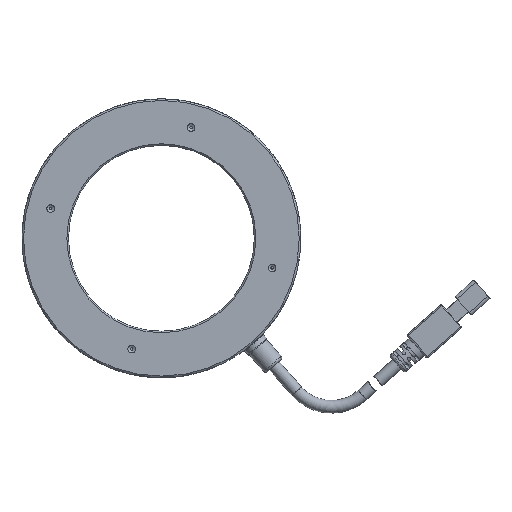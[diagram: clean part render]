
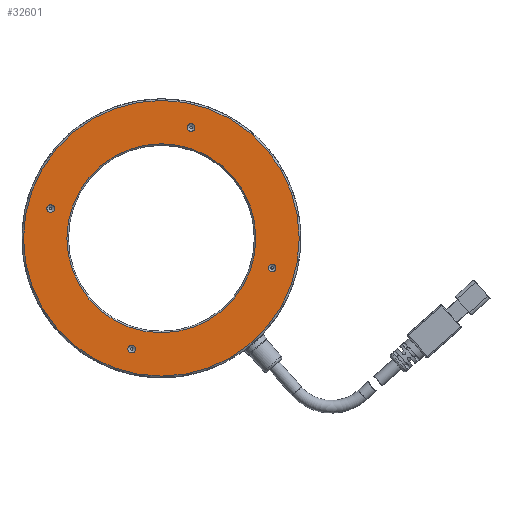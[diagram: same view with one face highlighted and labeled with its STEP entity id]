
A CAD part, front view. The second image highlights one B-rep face of the part: STEP entity #32601.
In plain terms, the highlighted planar face has unit normal (0, -1, 0).
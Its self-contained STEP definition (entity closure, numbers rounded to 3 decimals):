
#44 = CIRCLE ( 'NONE', #7725, 1.25 ) ;
#267 = DIRECTION ( 'NONE',  ( 0., 0., 1. ) ) ;
#392 = FACE_BOUND ( 'NONE', #36354, .T. ) ;
#794 = EDGE_LOOP ( 'NONE', ( #29741 ) ) ;
#1219 = EDGE_CURVE ( 'NONE', #36579, #36579, #28625, .T. ) ;
#1882 = VERTEX_POINT ( 'NONE', #18802 ) ;
#3583 = EDGE_LOOP ( 'NONE', ( #39015 ) ) ;
#4092 = DIRECTION ( 'NONE',  ( 0., 1., 0. ) ) ;
#4682 = DIRECTION ( 'NONE',  ( 0., 0., 1. ) ) ;
#4892 = DIRECTION ( 'NONE',  ( 0., 1., 0. ) ) ;
#6357 = AXIS2_PLACEMENT_3D ( 'NONE', #14523, #18055, #4682 ) ;
#7725 = AXIS2_PLACEMENT_3D ( 'NONE', #40496, #25305, #267 ) ;
#8152 = CARTESIAN_POINT ( 'NONE',  ( -8.623, 4.974, 0. ) ) ;
#8427 = DIRECTION ( 'NONE',  ( 0., 1., 0. ) ) ;
#9066 = ORIENTED_EDGE ( 'NONE', *, *, #36911, .T. ) ;
#9430 = CIRCLE ( 'NONE', #20198, 1.25 ) ;
#9689 = VERTEX_POINT ( 'NONE', #27954 ) ;
#12459 = CIRCLE ( 'NONE', #15367, 30.5 ) ;
#12937 = DIRECTION ( 'NONE',  ( 0., 1., 0. ) ) ;
#13023 = EDGE_CURVE ( 'NONE', #15496, #15496, #19027, .T. ) ;
#13059 = FACE_BOUND ( 'NONE', #794, .T. ) ;
#13189 = ORIENTED_EDGE ( 'NONE', *, *, #16524, .T. ) ;
#13820 = DIRECTION ( 'NONE',  ( 0., 0., 1. ) ) ;
#14523 = CARTESIAN_POINT ( 'NONE',  ( -44.363, 4.974, 9.576 ) ) ;
#15367 = AXIS2_PLACEMENT_3D ( 'NONE', #8152, #8427, #30103 ) ;
#15496 = VERTEX_POINT ( 'NONE', #37657 ) ;
#16524 = EDGE_CURVE ( 'NONE', #23788, #23788, #39513, .T. ) ;
#16843 = EDGE_LOOP ( 'NONE', ( #9066 ) ) ;
#17108 = DIRECTION ( 'NONE',  ( 0., 0., 1. ) ) ;
#17705 = EDGE_LOOP ( 'NONE', ( #20553 ) ) ;
#18055 = DIRECTION ( 'NONE',  ( 0., 1., 0. ) ) ;
#18152 = CARTESIAN_POINT ( 'NONE',  ( -8.623, 4.974, 44.5 ) ) ;
#18802 = CARTESIAN_POINT ( 'NONE',  ( -18.2, 4.974, -34.489 ) ) ;
#19027 = CIRCLE ( 'NONE', #24972, 1.25 ) ;
#19447 = CARTESIAN_POINT ( 'NONE',  ( 27.116, 4.974, -9.576 ) ) ;
#19869 = FACE_BOUND ( 'NONE', #17705, .T. ) ;
#19983 = DIRECTION ( 'NONE',  ( 0., 0., 1. ) ) ;
#20198 = AXIS2_PLACEMENT_3D ( 'NONE', #25472, #12937, #37792 ) ;
#20553 = ORIENTED_EDGE ( 'NONE', *, *, #34067, .T. ) ;
#20857 = FACE_BOUND ( 'NONE', #3583, .T. ) ;
#23666 = EDGE_CURVE ( 'NONE', #39451, #39451, #44, .T. ) ;
#23788 = VERTEX_POINT ( 'NONE', #34381 ) ;
#24972 = AXIS2_PLACEMENT_3D ( 'NONE', #19447, #4092, #19983 ) ;
#25197 = CARTESIAN_POINT ( 'NONE',  ( 0.953, 4.974, 36.989 ) ) ;
#25285 = ORIENTED_EDGE ( 'NONE', *, *, #1219, .T. ) ;
#25305 = DIRECTION ( 'NONE',  ( 0., 1., 0. ) ) ;
#25472 = CARTESIAN_POINT ( 'NONE',  ( -18.2, 4.974, -35.739 ) ) ;
#27954 = CARTESIAN_POINT ( 'NONE',  ( -8.623, 4.974, 30.5 ) ) ;
#28625 = CIRCLE ( 'NONE', #29289, 44.5 ) ;
#29174 = FACE_BOUND ( 'NONE', #16843, .T. ) ;
#29289 = AXIS2_PLACEMENT_3D ( 'NONE', #35247, #38668, #13820 ) ;
#29741 = ORIENTED_EDGE ( 'NONE', *, *, #13023, .T. ) ;
#30103 = DIRECTION ( 'NONE',  ( 0., 0., 1. ) ) ;
#30588 = EDGE_LOOP ( 'NONE', ( #25285 ) ) ;
#32021 = PLANE ( 'NONE',  #36383 ) ;
#32601 = ADVANCED_FACE ( 'NONE', ( #37978, #29174, #19869, #392, #20857, #13059 ), #32021, .F. ) ;
#34067 = EDGE_CURVE ( 'NONE', #1882, #1882, #9430, .T. ) ;
#34381 = CARTESIAN_POINT ( 'NONE',  ( -44.363, 4.974, 10.826 ) ) ;
#35247 = CARTESIAN_POINT ( 'NONE',  ( -8.623, 4.974, 0. ) ) ;
#35997 = CARTESIAN_POINT ( 'NONE',  ( -8.623, 4.974, 0. ) ) ;
#36354 = EDGE_LOOP ( 'NONE', ( #13189 ) ) ;
#36383 = AXIS2_PLACEMENT_3D ( 'NONE', #35997, #4892, #17108 ) ;
#36579 = VERTEX_POINT ( 'NONE', #18152 ) ;
#36911 = EDGE_CURVE ( 'NONE', #9689, #9689, #12459, .T. ) ;
#37657 = CARTESIAN_POINT ( 'NONE',  ( 27.116, 4.974, -8.326 ) ) ;
#37792 = DIRECTION ( 'NONE',  ( 0., 0., 1. ) ) ;
#37978 = FACE_OUTER_BOUND ( 'NONE', #30588, .T. ) ;
#38668 = DIRECTION ( 'NONE',  ( 0., -1., 0. ) ) ;
#39015 = ORIENTED_EDGE ( 'NONE', *, *, #23666, .T. ) ;
#39451 = VERTEX_POINT ( 'NONE', #25197 ) ;
#39513 = CIRCLE ( 'NONE', #6357, 1.25 ) ;
#40496 = CARTESIAN_POINT ( 'NONE',  ( 0.953, 4.974, 35.739 ) ) ;
